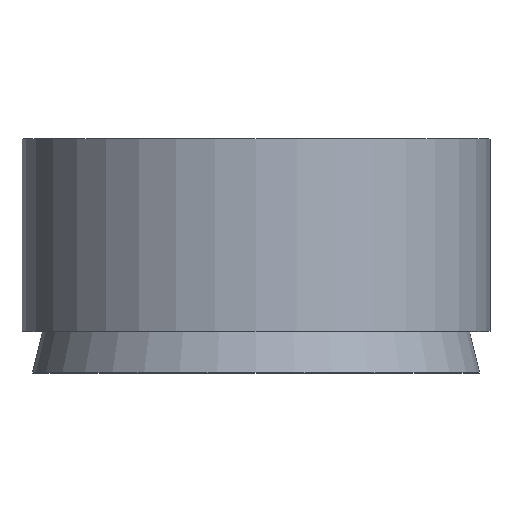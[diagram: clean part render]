
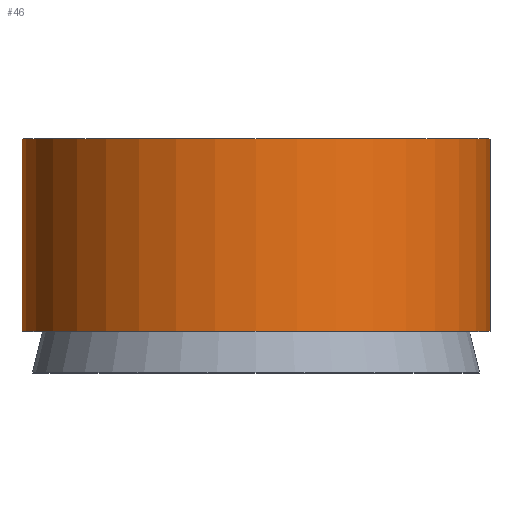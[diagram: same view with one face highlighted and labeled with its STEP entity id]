
A CAD part, top view. The second image highlights one B-rep face of the part: STEP entity #46.
In plain terms, the highlighted cylindrical face has radius 4.5 mm (diameter 9 mm), a full revolution.
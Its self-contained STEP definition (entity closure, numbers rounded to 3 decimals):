
#46 = ADVANCED_FACE( '', ( #93, #94 ), #95, .T. );
#93 = FACE_OUTER_BOUND( '', #132, .T. );
#94 = FACE_OUTER_BOUND( '', #133, .T. );
#95 = CYLINDRICAL_SURFACE( '', #134, 4.5 );
#132 = EDGE_LOOP( '', ( #179 ) );
#133 = EDGE_LOOP( '', ( #180 ) );
#134 = AXIS2_PLACEMENT_3D( '', #181, #182, #183 );
#179 = ORIENTED_EDGE( '', *, *, #189, .F. );
#180 = ORIENTED_EDGE( '', *, *, #198, .T. );
#181 = CARTESIAN_POINT( '', ( 0., -60., 0. ) );
#182 = DIRECTION( '', ( 0., 1., 0. ) );
#183 = DIRECTION( '', ( 0., 0., -1. ) );
#189 = EDGE_CURVE( '', #208, #208, #209, .T. );
#198 = EDGE_CURVE( '', #221, #221, #222, .T. );
#208 = VERTEX_POINT( '', #232 );
#209 = CIRCLE( '', #233, 4.5 );
#221 = VERTEX_POINT( '', #245 );
#222 = CIRCLE( '', #246, 4.5 );
#232 = CARTESIAN_POINT( '', ( 0., 0.8, -4.5 ) );
#233 = AXIS2_PLACEMENT_3D( '', #257, #258, #259 );
#245 = CARTESIAN_POINT( '', ( 0., 4.5, -4.5 ) );
#246 = AXIS2_PLACEMENT_3D( '', #269, #270, #271 );
#257 = CARTESIAN_POINT( '', ( 0., 0.8, 0. ) );
#258 = DIRECTION( '', ( 0., -1., 0. ) );
#259 = DIRECTION( '', ( 0., 0., -1. ) );
#269 = CARTESIAN_POINT( '', ( 0., 4.5, 0. ) );
#270 = DIRECTION( '', ( 0., -1., 0. ) );
#271 = DIRECTION( '', ( 0., 0., -1. ) );
